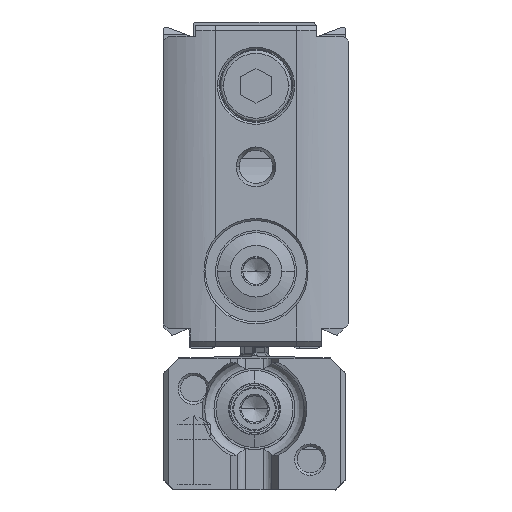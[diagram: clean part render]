
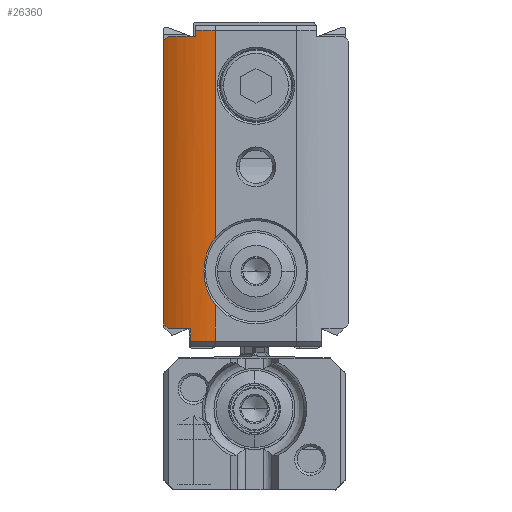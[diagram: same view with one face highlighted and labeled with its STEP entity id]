
A CAD part, left-side view. The second image highlights one B-rep face of the part: STEP entity #26360.
In plain terms, the highlighted cylindrical face has radius 10 mm (diameter 20 mm), a partial arc.
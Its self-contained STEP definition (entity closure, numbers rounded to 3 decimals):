
#20690=CARTESIAN_POINT('',(-513.638,34.15,
-50.083));
#20700=VERTEX_POINT('',#20690);
#21190=CARTESIAN_POINT('',(-513.333,31.7,
-50.083));
#21200=VERTEX_POINT('',#21190);
#21230=CARTESIAN_POINT('',(-503.638,34.15,
-50.083));
#21240=DIRECTION('',(0.,0.,-1.));
#21250=DIRECTION('',(0.,-1.,0.));
#21260=AXIS2_PLACEMENT_3D('',#21230,#21240,#21250);
#21270=CIRCLE('',#21260,10.);
#21280=EDGE_CURVE('',#21200,#20700,#21270,.T.);
#24850=CARTESIAN_POINT('',(-503.638,34.15,
-51.283));
#24860=DIRECTION('',(0.,0.,-1.));
#24870=DIRECTION('',(0.,-1.,0.));
#24880=AXIS2_PLACEMENT_3D('',#24850,#24860,#24870);
#24890=CIRCLE('',#24880,10.);
#24900=CARTESIAN_POINT('',(-512.491,29.5,
-51.283));
#24910=VERTEX_POINT('',#24900);
#24920=CARTESIAN_POINT('',(-513.333,31.7,
-51.283));
#24930=VERTEX_POINT('',#24920);
#24940=EDGE_CURVE('',#24910,#24930,#24890,.T.);
#25230=CARTESIAN_POINT('',(-513.333,31.7,
-81.283));
#25240=DIRECTION('',(0.,0.,-1.));
#25250=VECTOR('',#25240,1.);
#25260=LINE('',#25230,#25250);
#25270=EDGE_CURVE('',#21200,#24930,#25260,.T.);
#25340=CARTESIAN_POINT('',(-503.638,34.15,
-81.283));
#25350=DIRECTION('',(0.,0.,-1.));
#25360=DIRECTION('',(0.,-1.,0.));
#25370=AXIS2_PLACEMENT_3D('',#25340,#25350,#25360);
#25380=CYLINDRICAL_SURFACE('',#25370,10.);
#25390=ORIENTED_EDGE('',*,*,#25270,.F.);
#25400=ORIENTED_EDGE('',*,*,#24940,.T.);
#25410=CARTESIAN_POINT('',(-503.638,34.15,
-46.633));
#25420=DIRECTION('',(0.,-0.707,
0.707));
#25430=DIRECTION('',(0.,-0.707,
-0.707));
#25440=AXIS2_PLACEMENT_3D('',#25410,#25420,#25430);
#25450=ELLIPSE('',#25440,14.142,10.);
#25460=CARTESIAN_POINT('',(-512.21,29.,
-51.783));
#25470=VERTEX_POINT('',#25460);
#25480=EDGE_CURVE('',#24910,#25470,#25450,.T.);
#25490=ORIENTED_EDGE('',*,*,#25480,.F.);
#25500=CARTESIAN_POINT('',(-512.21,29.,
-81.283));
#25510=DIRECTION('',(0.,0.,-1.));
#25520=VECTOR('',#25510,1.);
#25530=LINE('',#25500,#25520);
#25540=CARTESIAN_POINT('',(-512.21,29.,
-79.683));
#25550=VERTEX_POINT('',#25540);
#25560=EDGE_CURVE('',#25470,#25550,#25530,.T.);
#25570=ORIENTED_EDGE('',*,*,#25560,.F.);
#25580=CARTESIAN_POINT('',(-503.638,34.15,
-84.833));
#25590=DIRECTION('',(0.,-0.707,
-0.707));
#25600=DIRECTION('',(0.,-0.707,
0.707));
#25610=AXIS2_PLACEMENT_3D('',#25580,#25590,#25600);
#25620=ELLIPSE('',#25610,14.142,10.);
#25630=CARTESIAN_POINT('',(-512.491,29.5,
-80.183));
#25640=VERTEX_POINT('',#25630);
#25650=EDGE_CURVE('',#25550,#25640,#25620,.T.);
#25660=ORIENTED_EDGE('',*,*,#25650,.F.);
#25670=CARTESIAN_POINT('',(-503.638,34.15,
-80.183));
#25680=DIRECTION('',(0.,0.,-1.));
#25690=DIRECTION('',(0.,-1.,0.));
#25700=AXIS2_PLACEMENT_3D('',#25670,#25680,#25690);
#25710=CIRCLE('',#25700,10.);
#25720=CARTESIAN_POINT('',(-513.436,32.15,
-80.183));
#25730=VERTEX_POINT('',#25720);
#25740=EDGE_CURVE('',#25640,#25730,#25710,.T.);
#25750=ORIENTED_EDGE('',*,*,#25740,.F.);
#25760=CARTESIAN_POINT('',(-513.436,32.15,
-81.283));
#25770=DIRECTION('',(0.,0.,-1.));
#25780=VECTOR('',#25770,1.);
#25790=LINE('',#25760,#25780);
#25800=CARTESIAN_POINT('',(-513.436,32.15,
-80.783));
#25810=VERTEX_POINT('',#25800);
#25820=EDGE_CURVE('',#25730,#25810,#25790,.T.);
#25830=ORIENTED_EDGE('',*,*,#25820,.F.);
#25840=CARTESIAN_POINT('',(-503.638,34.15,
-80.783));
#25850=DIRECTION('',(0.,0.,-1.));
#25860=DIRECTION('',(0.,-1.,0.));
#25870=AXIS2_PLACEMENT_3D('',#25840,#25850,#25860);
#25880=CIRCLE('',#25870,10.);
#25890=CARTESIAN_POINT('',(-513.638,34.15,
-80.783));
#25900=VERTEX_POINT('',#25890);
#25910=EDGE_CURVE('',#25810,#25900,#25880,.T.);
#25920=ORIENTED_EDGE('',*,*,#25910,.F.);
#25930=CARTESIAN_POINT('',(-513.638,34.15,
-37.853));
#25940=DIRECTION('',(0.,0.,-1.));
#25950=VECTOR('',#25940,1.);
#25960=LINE('',#25930,#25950);
#25970=CARTESIAN_POINT('',(-513.638,34.15,
-60.306));
#25980=VERTEX_POINT('',#25970);
#25990=EDGE_CURVE('',#25980,#25900,#25960,.T.);
#26000=ORIENTED_EDGE('',*,*,#25990,.T.);
#26010=CARTESIAN_POINT('',(-513.573,33.015,
-56.983));
#26020=CARTESIAN_POINT('',(-513.573,33.015,
-57.28));
#26030=CARTESIAN_POINT('',(-513.576,33.038,
-57.579));
#26040=CARTESIAN_POINT('',(-513.586,33.132,
-58.17));
#26050=CARTESIAN_POINT('',(-513.593,33.202,
-58.462));
#26060=CARTESIAN_POINT('',(-513.609,33.39,
-59.027));
#26070=CARTESIAN_POINT('',(-513.618,33.507,
-59.3));
#26080=CARTESIAN_POINT('',(-513.632,33.792,
-59.826));
#26090=CARTESIAN_POINT('',(-513.638,33.96,
-60.077));
#26100=CARTESIAN_POINT('',(-513.638,34.15,
-60.306));
#26110=B_SPLINE_CURVE_WITH_KNOTS('',3,(#26010,#26020,#26030,#26040,
#26050,#26060,#26070,#26080,#26090,#26100),.UNSPECIFIED.,.F.,.F.,(4,2,2,
2,4),(0.,0.896,1.794,2.688,
3.586),.UNSPECIFIED.);
#26120=CARTESIAN_POINT('',(-513.573,33.015,
-56.983));
#26130=VERTEX_POINT('',#26120);
#26140=EDGE_CURVE('',#26130,#25980,#26110,.T.);
#26150=ORIENTED_EDGE('',*,*,#26140,.T.);
#26160=CARTESIAN_POINT('',(-513.638,34.15,
-53.66));
#26170=CARTESIAN_POINT('',(-513.638,33.96,
-53.89));
#26180=CARTESIAN_POINT('',(-513.632,33.792,
-54.14));
#26190=CARTESIAN_POINT('',(-513.618,33.507,
-54.666));
#26200=CARTESIAN_POINT('',(-513.609,33.39,
-54.939));
#26210=CARTESIAN_POINT('',(-513.593,33.202,
-55.504));
#26220=CARTESIAN_POINT('',(-513.586,33.132,
-55.796));
#26230=CARTESIAN_POINT('',(-513.576,33.038,
-56.388));
#26240=CARTESIAN_POINT('',(-513.573,33.015,
-56.687));
#26250=CARTESIAN_POINT('',(-513.573,33.015,
-56.983));
#26260=B_SPLINE_CURVE_WITH_KNOTS('',3,(#26160,#26170,#26180,#26190,
#26200,#26210,#26220,#26230,#26240,#26250),.UNSPECIFIED.,.F.,.F.,(4,2,2,
2,4),(0.,0.898,1.792,2.69,
3.586),.UNSPECIFIED.);
#26270=CARTESIAN_POINT('',(-513.638,34.15,
-53.66));
#26280=VERTEX_POINT('',#26270);
#26290=EDGE_CURVE('',#26280,#26130,#26260,.T.);
#26300=ORIENTED_EDGE('',*,*,#26290,.T.);
#26310=EDGE_CURVE('',#20700,#26280,#25960,.T.);
#26320=ORIENTED_EDGE('',*,*,#26310,.T.);
#26330=ORIENTED_EDGE('',*,*,#21280,.T.);
#26340=EDGE_LOOP('',(#26330,#26320,#26300,#26150,#26000,#25920,#25830,
#25750,#25660,#25570,#25490,#25400,#25390));
#26350=FACE_OUTER_BOUND('',#26340,.T.);
#26360=ADVANCED_FACE('',(#26350),#25380,.T.);
